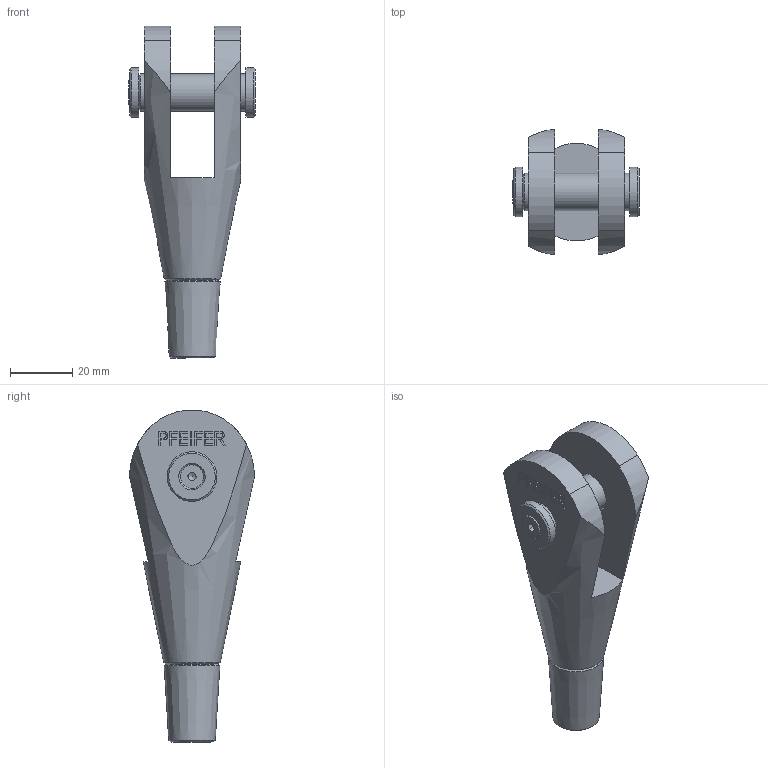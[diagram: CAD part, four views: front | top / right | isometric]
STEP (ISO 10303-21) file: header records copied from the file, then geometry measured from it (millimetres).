
FILE_DESCRIPTION(/* description */ (''),/* implementation_level */ '2;1');
FILE_NAME(/* name */ 'C:\Vault_WS\Designs\520-012-GAK.stp',/* time_stamp */ '2020-06-25T07:43:51+02:00',/* author */ ('schwarz'),/* organization */ (''),/* preprocessor_version */ 'ST-DEVELOPER v16.1',/* originating_system */ 'Autodesk Inventor 2016',/* authorisation */ '');
FILE_SCHEMA (('AUTOMOTIVE_DESIGN { 1 0 10303 214 3 1 1 }'));
Length unit declared in the file: centimetre
Products named in the file (1): 520-012-GAK-KMU-Kunde
Bounding box: 40.78 x 40.25 x 106.94 mm (x, y, z)
Volume: 46319.4 mm3; surface area: 15857.2 mm2
Topology: 2 solids, 3 shells, 186 faces, 482 edges, 319 vertices
Faces by surface type: plane 136, bspline 21, cylinder 16, cone 13
Full cylindrical faces by diameter (mm): 3.242 x1, 4 x1, 4.5 x1, 7.53 x1, 12 x1, 12.6 x1, 13.5 x2, 16 x2
Entity records: 5760 total; most frequent: CARTESIAN_POINT 1264, ORIENTED_EDGE 900, DIRECTION 768, EDGE_CURVE 450, LINE 348, VECTOR 348, VERTEX_POINT 310, EDGE_LOOP 230
